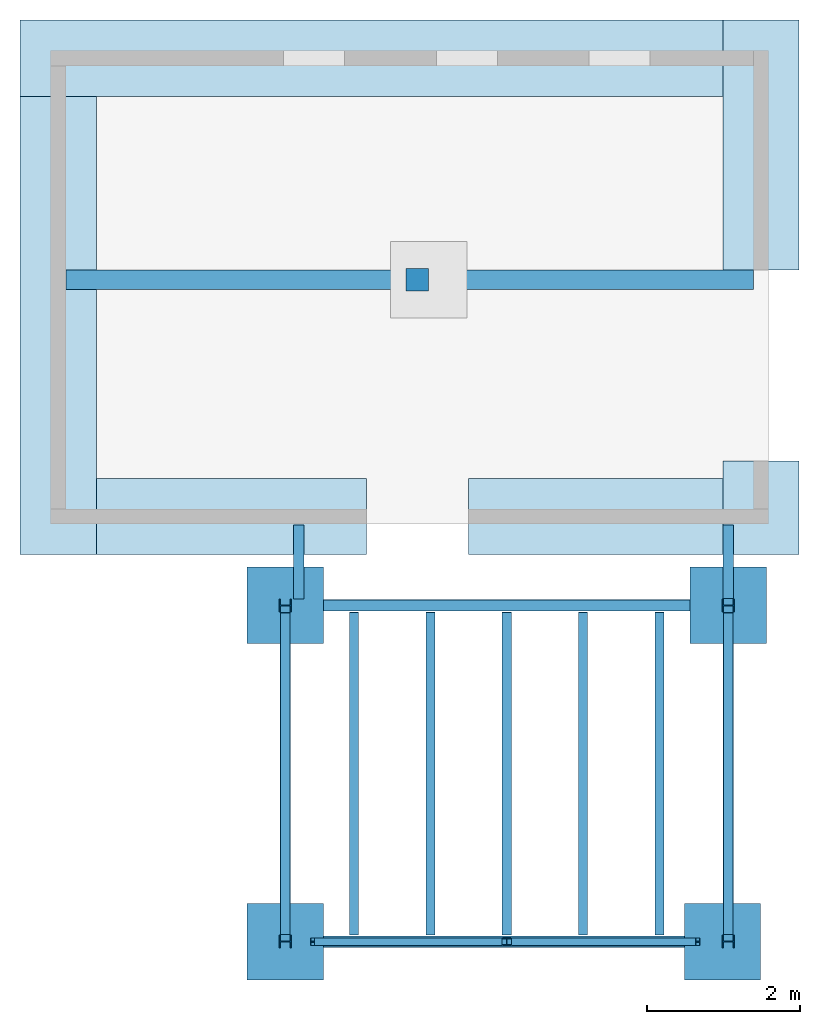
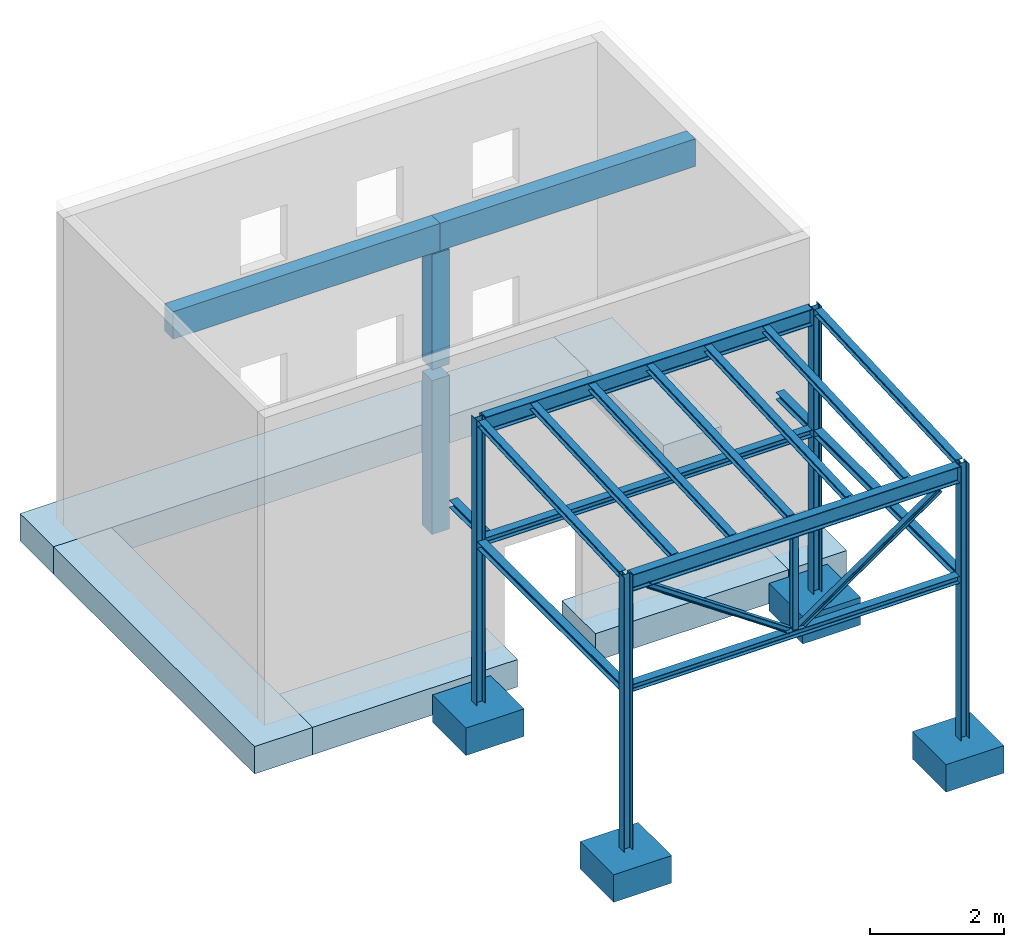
# Not in any storey, part 1 of 2: 19 beams, 7 columns, 4 footings, 4 slabs.
"""IFC2X3 building model written with IfcOpenShell, lengths in metres."""

from ifc_helpers import new_model, entity, si_unit, converted_unit, derived_unit, direction, frame, frame_2d, origin, place, context, subcontext, project, spatial, polyline, circle_curve, parameter, trimmed, segment, composite_curve, rectangle, i_section, outline, extrude, source, transform, mapped, material, type_object, type_shapes, element, save


model = new_model("IFC2X3")

# Units and contexts
model_context = context("Model", 3, precision=1e-05, world=origin(), true_north=direction((6.12303176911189e-17, 1.0)))
body_context = subcontext(model_context, "Body", "Model", "MODEL_VIEW")
ifc_project = project(units=[si_unit("LENGTHUNIT", "METRE"), si_unit("AREAUNIT", "SQUARE_METRE"), si_unit("VOLUMEUNIT", "CUBIC_METRE"), converted_unit("PLANEANGLEUNIT", "DEGREE", entity("IfcRatioMeasure", 0.0174532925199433), si_unit("PLANEANGLEUNIT", "RADIAN"), dimensions=[0, 0, 0, 0, 0, 0, 0]), si_unit("MASSUNIT", "GRAM", prefix="KILO"), derived_unit("MASSDENSITYUNIT", [(si_unit("MASSUNIT", "GRAM", prefix="KILO"), 1), (si_unit("LENGTHUNIT", "METRE"), -3)]), si_unit("TIMEUNIT", "SECOND"), si_unit("FREQUENCYUNIT", "HERTZ"), si_unit("THERMODYNAMICTEMPERATUREUNIT", "DEGREE_CELSIUS"), derived_unit("THERMALTRANSMITTANCEUNIT", [(si_unit("MASSUNIT", "GRAM", prefix="KILO"), 1), (si_unit("THERMODYNAMICTEMPERATUREUNIT", "KELVIN"), -1), (si_unit("TIMEUNIT", "SECOND"), -3)]), derived_unit("VOLUMETRICFLOWRATEUNIT", [(si_unit("LENGTHUNIT", "METRE"), 3), (si_unit("TIMEUNIT", "SECOND"), -1)]), si_unit("ELECTRICCURRENTUNIT", "AMPERE"), si_unit("ELECTRICVOLTAGEUNIT", "VOLT"), si_unit("POWERUNIT", "WATT"), si_unit("FORCEUNIT", "NEWTON", prefix="KILO"), si_unit("ILLUMINANCEUNIT", "LUX"), si_unit("LUMINOUSFLUXUNIT", "LUMEN"), si_unit("LUMINOUSINTENSITYUNIT", "CANDELA"), derived_unit("USERDEFINED", [(si_unit("MASSUNIT", "GRAM", prefix="KILO"), -1), (si_unit("LENGTHUNIT", "METRE"), -2), (si_unit("TIMEUNIT", "SECOND"), 3), (si_unit("LUMINOUSFLUXUNIT", "LUMEN"), 1)]), derived_unit("LINEARVELOCITYUNIT", [(si_unit("LENGTHUNIT", "METRE"), 1), (si_unit("TIMEUNIT", "SECOND"), -1)]), si_unit("PRESSUREUNIT", "PASCAL"), derived_unit("USERDEFINED", [(si_unit("LENGTHUNIT", "METRE"), -2), (si_unit("MASSUNIT", "GRAM", prefix="KILO"), 1), (si_unit("TIMEUNIT", "SECOND"), -2)])], contexts=[model_context])

# Site, building
site_placement = place(None, frame((4.52949330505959e-05, 1.90131286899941e-05, 0.0)))
site = spatial("IfcSite", under=ifc_project, at=site_placement, Name="Default", CompositionType="ELEMENT")
building_placement = place(site_placement, origin())
building = spatial("IfcBuilding", under=site, at=building_placement, CompositionType="ELEMENT")

# Footings
ifc_material_1 = material(Name="Ortbeton - bewehrt")
footing_1_placement = place(None, origin())
element("IfcFooting", 1, at=footing_1_placement, inside=building, material=ifc_material_1, Name="Wandfundament:STB 1000 x 500", ObjectType="Wandfundament:STB 1000 x 500", PredefinedType="STRIP_FOOTING", context=body_context, shape_type="SweptSolid", body=[
    extrude(rectangle(XDim=1.22985954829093, YDim=1.0, at=frame_2d((-0.077014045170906, -0.0999999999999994), x_axis=(1.0, 0.0))), frame((7.3281312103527, 6.75631842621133, -0.5), z_axis=(0.0, 0.0, 1.0), x_axis=(0.0, 1.0, 0.0)), (0.0, 0.0, 1.0), 0.5),
    extrude(rectangle(XDim=3.27014045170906, YDim=1.0, at=frame_2d((-0.127014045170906, -0.0999999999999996), x_axis=(1.0, 0.0))), frame((7.32813121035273, 11.5563184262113, -0.5), z_axis=(0.0, 0.0, 1.0), x_axis=(0.0, 1.0, 0.0)), (0.0, 0.0, 1.0), 0.5),
])
footing_2_placement = place(None, origin())
element("IfcFooting", 2, at=footing_2_placement, inside=building, material=ifc_material_1, Name="Wandfundament:STB 1000 x 500", ObjectType="Wandfundament:STB 1000 x 500", PredefinedType="STRIP_FOOTING", context=body_context, shape_type="SweptSolid", body=[
    extrude(rectangle(XDim=9.20000000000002, YDim=1.0, at=frame_2d((0.720000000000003, 0.100000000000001), x_axis=(1.0, 0.0))), frame((1.60813121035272, 12.464374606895, -0.5)), (0.0, 0.0, 1.0), 0.5),
])
footing_3_placement = place(None, origin())
element("IfcFooting", 3, at=footing_3_placement, inside=building, material=ifc_material_1, Name="Wandfundament:STB 1000 x 500", ObjectType="Wandfundament:STB 1000 x 500", PredefinedType="STRIP_FOOTING", context=body_context, shape_type="SweptSolid", body=[
    extrude(rectangle(XDim=5.99999999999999, YDim=1.0, at=frame_2d((0.4, 0.0999999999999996), x_axis=(1.0, 0.0))), frame((-1.6718687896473, 8.66437460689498, -0.5), z_axis=(0.0, 0.0, 1.0), x_axis=(0.0, 1.0, 0.0)), (0.0, 0.0, 1.0), 0.5),
])
footing_4_placement = place(None, origin())
element("IfcFooting", 4, at=footing_4_placement, inside=building, material=ifc_material_1, Name="Wandfundament:STB 1000 x 500", ObjectType="Wandfundament:STB 1000 x 500", PredefinedType="STRIP_FOOTING", context=body_context, shape_type="SweptSolid", body=[
    extrude(rectangle(XDim=3.53320579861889, YDim=1.0, at=frame_2d((5.55111512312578e-16, 0.0), x_axis=(1.0, 0.0))), frame((0.494734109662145, 6.56437460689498, -0.5), z_axis=(0.0, 0.0, 1.0), x_axis=(-1.0, 0.0, 0.0)), (0.0, 0.0, 1.0), 0.5),
    extrude(rectangle(XDim=3.33039362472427, YDim=1.0, at=frame_2d((1.55431223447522e-15, 0.0), x_axis=(1.0, 0.0))), frame((5.26293439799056, 6.56437460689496, -0.5)), (0.0, 0.0, 1.0), 0.5),
])

# Columns
ifc_material_2 = material(Name="Metall - Baustahl S235")
column_type_1 = type_object("IfcColumnType", Name="HEA 160", PredefinedType="COLUMN")
shared_shape_1 = source(origin(), body_context, "Body", "SweptSolid", [
    extrude(outline(composite_curve([segment(polyline([(0.067, -0.08), (0.076, -0.08)]), True, "CONTINUOUS"), segment(polyline([(0.076, -0.08), (0.076, 0.08)]), True, "CONTINUOUS"), segment(polyline([(0.076, 0.08), (0.067, 0.08)]), True, "CONTINUOUS"), segment(polyline([(0.067, 0.08), (0.067, 0.018)]), True, "CONTINUOUS"), segment(trimmed(circle_curve(frame_2d((0.052, 0.018), x_axis=(1.0, 0.0)), 0.015), [parameter(270.0)], [parameter(0.0)], True, "PARAMETER"), False, "CONTINUOUS"), segment(polyline([(0.052, 0.003), (-0.052, 0.003)]), True, "CONTINUOUS"), segment(trimmed(circle_curve(frame_2d((-0.052, 0.018), x_axis=(0.0, -1.0)), 0.015), [parameter(270.0)], [parameter(0.0)], True, "PARAMETER"), False, "CONTINUOUS"), segment(polyline([(-0.067, 0.018), (-0.067, 0.08)]), True, "CONTINUOUS"), segment(polyline([(-0.067, 0.08), (-0.076, 0.08)]), True, "CONTINUOUS"), segment(polyline([(-0.076, 0.08), (-0.076, -0.08)]), True, "CONTINUOUS"), segment(polyline([(-0.076, -0.08), (-0.067, -0.08)]), True, "CONTINUOUS"), segment(polyline([(-0.067, -0.08), (-0.067, -0.018)]), True, "CONTINUOUS"), segment(trimmed(circle_curve(frame_2d((-0.052, -0.018), x_axis=(-1.0, 0.0)), 0.015), [parameter(270.0)], [parameter(0.0)], True, "PARAMETER"), False, "CONTINUOUS"), segment(polyline([(-0.052, -0.00299999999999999), (0.052, -0.00299999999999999)]), True, "CONTINUOUS"), segment(trimmed(circle_curve(frame_2d((0.052, -0.018), x_axis=(0.0, 1.0)), 0.015), [parameter(270.0)], [parameter(0.0)], True, "PARAMETER"), False, "CONTINUOUS"), segment(polyline([(0.067, -0.018), (0.067, -0.08)]), True, "CONTINUOUS")], self_intersect=False)), frame((0.0, 0.0, 0.0), z_axis=(0.0, 0.0, 1.0), x_axis=(0.0, -1.0, 0.0)), (0.0, 0.0, 1.0), 5.0),
])
type_shapes(column_type_1, [shared_shape_1])
for number, where, z_axis, x_axis in (
    (5, (1.19995470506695, 0.999980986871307, 0.0), (0.0, 0.0, 1.0), (0.0, -1.0, 0.0)),
    (6, (6.99995470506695, 0.999980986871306, 0.0), (0.0, 0.0, 1.0), (0.0, -1.0, 0.0)),
):
    element("IfcColumn", number, at=place(None, frame(where, z_axis=z_axis, x_axis=x_axis)), inside=building, type_object=column_type_1, material=ifc_material_2, Name="HEA Stütze:HEA 160", ObjectType="HEA Stütze:HEA 160", context=body_context, shape_type="MappedRepresentation", body=[
        mapped(shared_shape_1, transform((0.0, 0.0, 0.0), scale=1.0)),
    ])
column_type_2 = type_object("IfcColumnType", Name="HEA 160", PredefinedType="COLUMN")
shared_shape_2 = source(origin(), body_context, "Body", "SweptSolid", [
    extrude(outline(composite_curve([segment(polyline([(0.067, -0.08), (0.076, -0.08)]), True, "CONTINUOUS"), segment(polyline([(0.076, -0.08), (0.076, 0.08)]), True, "CONTINUOUS"), segment(polyline([(0.076, 0.08), (0.067, 0.08)]), True, "CONTINUOUS"), segment(polyline([(0.067, 0.08), (0.067, 0.018)]), True, "CONTINUOUS"), segment(trimmed(circle_curve(frame_2d((0.052, 0.018), x_axis=(1.0, 0.0)), 0.015), [parameter(270.0)], [parameter(0.0)], True, "PARAMETER"), False, "CONTINUOUS"), segment(polyline([(0.052, 0.003), (-0.052, 0.003)]), True, "CONTINUOUS"), segment(trimmed(circle_curve(frame_2d((-0.052, 0.018), x_axis=(0.0, -1.0)), 0.015), [parameter(270.0)], [parameter(0.0)], True, "PARAMETER"), False, "CONTINUOUS"), segment(polyline([(-0.067, 0.018), (-0.067, 0.08)]), True, "CONTINUOUS"), segment(polyline([(-0.067, 0.08), (-0.076, 0.08)]), True, "CONTINUOUS"), segment(polyline([(-0.076, 0.08), (-0.076, -0.08)]), True, "CONTINUOUS"), segment(polyline([(-0.076, -0.08), (-0.067, -0.08)]), True, "CONTINUOUS"), segment(polyline([(-0.067, -0.08), (-0.067, -0.018)]), True, "CONTINUOUS"), segment(trimmed(circle_curve(frame_2d((-0.052, -0.018), x_axis=(-1.0, 0.0)), 0.015), [parameter(270.0)], [parameter(0.0)], True, "PARAMETER"), False, "CONTINUOUS"), segment(polyline([(-0.052, -0.00299999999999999), (0.052, -0.00299999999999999)]), True, "CONTINUOUS"), segment(trimmed(circle_curve(frame_2d((0.052, -0.018), x_axis=(0.0, 1.0)), 0.015), [parameter(270.0)], [parameter(0.0)], True, "PARAMETER"), False, "CONTINUOUS"), segment(polyline([(0.067, -0.018), (0.067, -0.08)]), True, "CONTINUOUS")], self_intersect=False)), frame((0.0, 0.0, 0.0), z_axis=(0.0, 0.0, 1.0), x_axis=(0.0, -1.0, 0.0)), (0.0, 0.0, 1.0), 5.2),
])
type_shapes(column_type_2, [shared_shape_2])
for number, where, z_axis, x_axis in (
    (7, (6.99995470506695, 5.3999809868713, 0.0), (0.0, 0.0, 1.0), (0.0, -1.0, 0.0)),
    (8, (1.19995470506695, 5.3999809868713, 0.0), (0.0, 0.0, 1.0), (0.0, -1.0, 0.0)),
):
    element("IfcColumn", number, at=place(None, frame(where, z_axis=z_axis, x_axis=x_axis)), inside=building, type_object=column_type_2, material=ifc_material_2, Name="HEA Stütze:HEA 160", ObjectType="HEA Stütze:HEA 160", context=body_context, shape_type="MappedRepresentation", body=[
        mapped(shared_shape_2, transform((0.0, 0.0, 0.0), scale=1.0)),
    ])
column_type_3 = type_object("IfcColumnType", Name="HEA 100", PredefinedType="COLUMN")
shared_shape_3 = source(origin(), body_context, "Body", "SweptSolid", [
    extrude(outline(composite_curve([segment(polyline([(0.04, -0.05), (0.048, -0.05)]), True, "CONTINUOUS"), segment(polyline([(0.048, -0.05), (0.048, 0.05)]), True, "CONTINUOUS"), segment(polyline([(0.048, 0.05), (0.04, 0.05)]), True, "CONTINUOUS"), segment(polyline([(0.04, 0.05), (0.04, 0.0145)]), True, "CONTINUOUS"), segment(trimmed(circle_curve(frame_2d((0.028, 0.0145), x_axis=(1.0, 0.0)), 0.012), [parameter(270.0)], [parameter(0.0)], True, "PARAMETER"), False, "CONTINUOUS"), segment(polyline([(0.028, 0.0025), (-0.028, 0.0025)]), True, "CONTINUOUS"), segment(trimmed(circle_curve(frame_2d((-0.028, 0.0145), x_axis=(0.0, -1.0)), 0.012), [parameter(270.0)], [parameter(0.0)], True, "PARAMETER"), False, "CONTINUOUS"), segment(polyline([(-0.04, 0.0145), (-0.04, 0.05)]), True, "CONTINUOUS"), segment(polyline([(-0.04, 0.05), (-0.048, 0.05)]), True, "CONTINUOUS"), segment(polyline([(-0.048, 0.05), (-0.048, -0.05)]), True, "CONTINUOUS"), segment(polyline([(-0.048, -0.05), (-0.04, -0.05)]), True, "CONTINUOUS"), segment(polyline([(-0.04, -0.05), (-0.04, -0.0145)]), True, "CONTINUOUS"), segment(trimmed(circle_curve(frame_2d((-0.028, -0.0145), x_axis=(-1.0, 0.0)), 0.012), [parameter(269.999999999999)], [parameter(0.0)], True, "PARAMETER"), False, "CONTINUOUS"), segment(polyline([(-0.028, -0.0025), (0.028, -0.0025)]), True, "CONTINUOUS"), segment(trimmed(circle_curve(frame_2d((0.028, -0.0145), x_axis=(0.0, 1.0)), 0.012), [parameter(270.0)], [parameter(0.0)], True, "PARAMETER"), False, "CONTINUOUS"), segment(polyline([(0.04, -0.0145), (0.04, -0.05)]), True, "CONTINUOUS")], self_intersect=False)), frame((0.0, 0.0, 3.0), z_axis=(0.0, 0.0, 1.0), x_axis=(0.0, -1.0, 0.0)), (0.0, 0.0, 1.0), 1.7),
])
type_shapes(column_type_3, [shared_shape_3])
column_1_placement = place(None, frame((4.09995470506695, 0.999980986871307, 0.0)))
element("IfcColumn", 9, at=column_1_placement, inside=building, type_object=column_type_3, material=ifc_material_2, Name="HEA Stütze:HEA 100", ObjectType="HEA Stütze:HEA 100", context=body_context, shape_type="MappedRepresentation", body=[
    mapped(shared_shape_3, transform((0.0, 0.0, 0.0), scale=1.0)),
])
ifc_material_3 = material(Name="Ortbeton - bewehrt Verputzt")
column_type_4 = type_object("IfcColumnType", Name="STB 300 x 300", PredefinedType="COLUMN")
shared_shape_4 = source(origin(), body_context, "Body", "SweptSolid", [
    extrude(rectangle(XDim=0.3, YDim=0.3, at=frame_2d((-5.41233724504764e-16, 0.0), x_axis=(1.0, 0.0))), frame((2.92813121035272, 9.66437460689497, 0.0), z_axis=(0.0, 0.0, 1.0), x_axis=(0.0, -1.0, 0.0)), (0.0, 0.0, 1.0), 2.8),
])
type_shapes(column_type_4, [shared_shape_4])
column_2_placement = place(None, origin())
element("IfcColumn", 10, at=column_2_placement, inside=building, type_object=column_type_4, material=ifc_material_3, Name="STB Stütze - rechteckig:STB 300 x 300", ObjectType="STB Stütze - rechteckig:STB 300 x 300", context=body_context, shape_type="MappedRepresentation", body=[
    mapped(shared_shape_4, transform((0.0, 0.0, 0.0), scale=1.0)),
])
column_type_5 = type_object("IfcColumnType", Name="STB 300 x 300", PredefinedType="COLUMN")
shared_shape_5 = source(origin(), body_context, "Body", "SweptSolid", [
    extrude(rectangle(XDim=0.3, YDim=0.3, at=frame_2d((-5.41233724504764e-16, 0.0), x_axis=(1.0, 0.0))), frame((2.92813121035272, 9.66437460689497, 3.0), z_axis=(0.0, 0.0, 1.0), x_axis=(0.0, -1.0, 0.0)), (0.0, 0.0, 1.0), 2.1),
])
type_shapes(column_type_5, [shared_shape_5])
column_3_placement = place(None, origin())
element("IfcColumn", 11, at=column_3_placement, inside=building, type_object=column_type_5, material=ifc_material_3, Name="STB Stütze - rechteckig:STB 300 x 300", ObjectType="STB Stütze - rechteckig:STB 300 x 300", context=body_context, shape_type="MappedRepresentation", body=[
    mapped(shared_shape_5, transform((0.0, 0.0, 0.0), scale=1.0)),
])

# Beams
beam_type_1 = type_object("IfcBeamType", Name="HEA 120", PredefinedType="BEAM")
beam_1_placement = place(None, frame((6.99995470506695, 0.999980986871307, 5.0), z_axis=(0.0, -0.0454076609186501, 0.9989685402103), x_axis=(0.0, 0.9989685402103, 0.0454076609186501)))
element("IfcBeam", 12, at=beam_1_placement, inside=building, type_object=beam_type_1, material=ifc_material_2, Name="HEA Träger:HEA 120", ObjectType="HEA Träger:HEA 120", context=body_context, shape_type="SweptSolid", body=[
    extrude(i_section(OverallWidth=0.12, OverallDepth=0.114, WebThickness=0.00499999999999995, FlangeThickness=0.00800000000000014, FilletRadius=0.0120000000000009, at=frame_2d((-1.08246744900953e-15, 5.41233724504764e-16), x_axis=(0.0, 1.0))), frame((0.0926715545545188, 0.0, -0.0570000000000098), z_axis=(1.0, 0.0, 0.0), x_axis=(0.0, 0.0, -1.0)), (0.0, 0.0, 1.0), 4.2139),
])
beam_2_placement = place(None, frame((1.19995470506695, 0.999980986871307, 5.0), z_axis=(0.0, -0.0454076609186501, 0.9989685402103), x_axis=(0.0, 0.9989685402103, 0.0454076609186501)))
element("IfcBeam", 13, at=beam_2_placement, inside=building, type_object=beam_type_1, material=ifc_material_2, Name="HEA Träger:HEA 120", ObjectType="HEA Träger:HEA 120", context=body_context, shape_type="SweptSolid", body=[
    extrude(i_section(OverallWidth=0.12, OverallDepth=0.114, WebThickness=0.00500000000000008, FlangeThickness=0.00800000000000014, FilletRadius=0.0119999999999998, at=frame_2d((-1.08593689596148e-15, 6.59194920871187e-17), x_axis=(0.0, 1.0))), frame((0.092671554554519, 0.0, -0.0570000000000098), z_axis=(1.0, 0.0, 0.0), x_axis=(0.0, 0.0, -1.0)), (0.0, 0.0, 1.0), 4.2139),
])
beam_3_placement = place(None, frame((2.09995470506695, 0.999980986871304, 5.0), z_axis=(0.0, -0.0454076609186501, 0.9989685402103), x_axis=(0.0, 0.9989685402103, 0.0454076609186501)))
element("IfcBeam", 14, at=beam_3_placement, inside=building, type_object=beam_type_1, material=ifc_material_2, Name="HEA Träger:HEA 120", ObjectType="HEA Träger:HEA 120", context=body_context, shape_type="SweptSolid", body=[
    extrude(i_section(OverallWidth=0.12, OverallDepth=0.114, WebThickness=0.00499999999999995, FlangeThickness=0.00800000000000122, FilletRadius=0.0119999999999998, at=frame_2d((2.16493489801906e-15, 0.0), x_axis=(0.0, 1.0))), frame((0.0876715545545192, 0.0, -0.0570000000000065), z_axis=(1.0, 0.0, 0.0), x_axis=(0.0, 0.0, -1.0)), (0.0, 0.0, 1.0), 4.2239),
])
beam_4_placement = place(None, frame((3.09995470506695, 0.999980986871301, 5.0), z_axis=(0.0, -0.0454076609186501, 0.9989685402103), x_axis=(0.0, 0.9989685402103, 0.0454076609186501)))
element("IfcBeam", 15, at=beam_4_placement, inside=building, type_object=beam_type_1, material=ifc_material_2, Name="HEA Träger:HEA 120", ObjectType="HEA Träger:HEA 120", context=body_context, shape_type="SweptSolid", body=[
    extrude(i_section(OverallWidth=0.12, OverallDepth=0.114, WebThickness=0.00500000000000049, FlangeThickness=0.00800000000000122, FilletRadius=0.012, at=frame_2d((2.16493489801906e-15, -8.11850586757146e-16), x_axis=(0.0, 1.0))), frame((0.0876715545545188, 0.0, -0.0570000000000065), z_axis=(1.0, 0.0, 0.0), x_axis=(0.0, 0.0, -1.0)), (0.0, 0.0, 1.0), 4.2239),
])
beam_5_placement = place(None, frame((4.09995470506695, 0.999980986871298, 5.0), z_axis=(0.0, -0.0454076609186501, 0.9989685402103), x_axis=(0.0, 0.9989685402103, 0.0454076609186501)))
element("IfcBeam", 16, at=beam_5_placement, inside=building, type_object=beam_type_1, material=ifc_material_2, Name="HEA Träger:HEA 120", ObjectType="HEA Träger:HEA 120", context=body_context, shape_type="SweptSolid", body=[
    extrude(i_section(OverallWidth=0.12, OverallDepth=0.114, WebThickness=0.00500000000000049, FlangeThickness=0.00800000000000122, FilletRadius=0.012, at=frame_2d((2.16493489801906e-15, -2.70616862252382e-16), x_axis=(0.0, 1.0))), frame((0.0876715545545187, 0.0, -0.0570000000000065), z_axis=(1.0, 0.0, 0.0), x_axis=(0.0, 0.0, -1.0)), (0.0, 0.0, 1.0), 4.2239),
])
beam_6_placement = place(None, frame((5.09995470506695, 0.999980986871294, 5.0), z_axis=(0.0, -0.0454076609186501, 0.9989685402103), x_axis=(0.0, 0.9989685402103, 0.0454076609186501)))
element("IfcBeam", 17, at=beam_6_placement, inside=building, type_object=beam_type_1, material=ifc_material_2, Name="HEA Träger:HEA 120", ObjectType="HEA Träger:HEA 120", context=body_context, shape_type="SweptSolid", body=[
    extrude(i_section(OverallWidth=0.12, OverallDepth=0.114, WebThickness=0.00499999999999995, FlangeThickness=0.00800000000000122, FilletRadius=0.0120000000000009, at=frame_2d((2.16493489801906e-15, 5.41233724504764e-16), x_axis=(0.0, 1.0))), frame((0.0876715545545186, 0.0, -0.0570000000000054), z_axis=(1.0, 0.0, 0.0), x_axis=(0.0, 0.0, -1.0)), (0.0, 0.0, 1.0), 4.2239),
])
beam_7_placement = place(None, frame((6.09995470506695, 0.999980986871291, 5.0), z_axis=(0.0, -0.0454076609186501, 0.9989685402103), x_axis=(0.0, 0.9989685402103, 0.0454076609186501)))
element("IfcBeam", 18, at=beam_7_placement, inside=building, type_object=beam_type_1, material=ifc_material_2, Name="HEA Träger:HEA 120", ObjectType="HEA Träger:HEA 120", context=body_context, shape_type="SweptSolid", body=[
    extrude(i_section(OverallWidth=0.12, OverallDepth=0.114, WebThickness=0.00499999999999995, FlangeThickness=0.00800000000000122, FilletRadius=0.0120000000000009, at=frame_2d((2.16493489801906e-15, -5.41233724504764e-16), x_axis=(0.0, 1.0))), frame((0.087671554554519, 0.0, -0.0570000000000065), z_axis=(1.0, 0.0, 0.0), x_axis=(0.0, 0.0, -1.0)), (0.0, 0.0, 1.0), 4.2239),
])
beam_type_2 = type_object("IfcBeamType", Name="IPE 300", PredefinedType="BEAM")
beam_8_placement = place(None, frame((1.19995470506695, 0.999980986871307, 5.0)))
element("IfcBeam", 19, at=beam_8_placement, inside=building, type_object=beam_type_2, material=ifc_material_2, Name="IPE Träger:IPE 300", ObjectType="IPE Träger:IPE 300", context=body_context, shape_type="SweptSolid", body=[
    extrude(i_section(OverallWidth=0.15, OverallDepth=0.299999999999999, WebThickness=0.00710000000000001, FlangeThickness=0.0107000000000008, FilletRadius=0.0149999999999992, at=frame_2d((1.36002320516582e-15, 1.31838984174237e-16), x_axis=(0.0, 1.0))), frame((0.0886999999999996, 0.0, -0.150000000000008), z_axis=(1.0, 0.0, 0.0), x_axis=(0.0, 0.0, -1.0)), (0.0, 0.0, 1.0), 5.6226),
])
beam_9_placement = place(None, frame((1.19995470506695, 5.3999809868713, 5.2)))
element("IfcBeam", 20, at=beam_9_placement, inside=building, type_object=beam_type_2, material=ifc_material_2, Name="IPE Träger:IPE 300", ObjectType="IPE Träger:IPE 300", context=body_context, shape_type="SweptSolid", body=[
    extrude(i_section(OverallWidth=0.150000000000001, OverallDepth=0.3, WebThickness=0.00710000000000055, FlangeThickness=0.0107000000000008, FilletRadius=0.0149999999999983, at=frame_2d((5.41233724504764e-16, 1.08246744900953e-15), x_axis=(0.0, 1.0))), frame((0.0886999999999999, 0.0, -0.150000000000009), z_axis=(1.0, 0.0, 0.0), x_axis=(0.0, 0.0, -1.0)), (0.0, 0.0, 1.0), 5.6226),
])
beam_type_3 = type_object("IfcBeamType", Name="HEA 140", PredefinedType="BEAM")
beam_10_placement = place(None, frame((1.19995470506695, 0.999980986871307, 3.0)))
element("IfcBeam", 21, at=beam_10_placement, inside=building, type_object=beam_type_3, material=ifc_material_2, Name="HEA Träger:HEA 140", ObjectType="HEA Träger:HEA 140", context=body_context, shape_type="SweptSolid", body=[
    extrude(i_section(OverallWidth=0.140000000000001, OverallDepth=0.133, WebThickness=0.00549999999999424, FlangeThickness=0.00850000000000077, FilletRadius=0.0119999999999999, at=frame_2d((5.41233724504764e-16, 6.93889390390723e-17), x_axis=(0.0, 1.0))), frame((0.0886999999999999, 0.0, -0.0665000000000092), z_axis=(1.0, 0.0, 0.0), x_axis=(0.0, 0.0, -1.0)), (0.0, 0.0, 1.0), 5.6226),
])
beam_11_placement = place(None, frame((1.19995470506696, 5.3999809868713, 3.0)))
element("IfcBeam", 22, at=beam_11_placement, inside=building, type_object=beam_type_3, material=ifc_material_2, Name="HEA Träger:HEA 140", ObjectType="HEA Träger:HEA 140", context=body_context, shape_type="SweptSolid", body=[
    extrude(i_section(OverallWidth=0.140000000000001, OverallDepth=0.133, WebThickness=0.00549999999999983, FlangeThickness=0.00850000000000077, FilletRadius=0.012000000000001, at=frame_2d((5.41233724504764e-16, 0.0), x_axis=(0.0, 1.0))), frame((0.0886999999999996, 0.0, -0.0665000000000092), z_axis=(1.0, 0.0, 0.0), x_axis=(0.0, 0.0, -1.0)), (0.0, 0.0, 1.0), 5.6226),
])
beam_12_placement = place(None, frame((6.99995470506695, 0.999980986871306, 3.0), z_axis=(0.0, 0.0, 1.0), x_axis=(0.0, 1.0, 0.0)))
element("IfcBeam", 23, at=beam_12_placement, inside=building, type_object=beam_type_3, material=ifc_material_2, Name="HEA Träger:HEA 140", ObjectType="HEA Träger:HEA 140", context=body_context, shape_type="SweptSolid", body=[
    extrude(i_section(OverallWidth=0.140000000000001, OverallDepth=0.133, WebThickness=0.00549999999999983, FlangeThickness=0.00850000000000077, FilletRadius=0.012000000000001, at=frame_2d((1.08246744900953e-15, 0.0), x_axis=(0.0, 1.0))), frame((0.0926999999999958, 0.0, -0.0665000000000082), z_axis=(1.0, 0.0, 0.0), x_axis=(0.0, 0.0, -1.0)), (0.0, 0.0, 1.0), 4.2146),
])
beam_13_placement = place(None, frame((1.19995470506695, 0.999980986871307, 3.0), z_axis=(0.0, 0.0, 1.0), x_axis=(0.0, 1.0, 0.0)))
element("IfcBeam", 24, at=beam_13_placement, inside=building, type_object=beam_type_3, material=ifc_material_2, Name="HEA Träger:HEA 140", ObjectType="HEA Träger:HEA 140", context=body_context, shape_type="SweptSolid", body=[
    extrude(i_section(OverallWidth=0.14, OverallDepth=0.133, WebThickness=0.0055000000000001, FlangeThickness=0.00850000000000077, FilletRadius=0.0119999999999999, at=frame_2d((1.08246744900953e-15, 6.93889390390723e-17), x_axis=(0.0, 1.0))), frame((0.0926999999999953, 0.0, -0.0665000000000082), z_axis=(1.0, 0.0, 0.0), x_axis=(0.0, 0.0, -1.0)), (0.0, 0.0, 1.0), 4.2146),
])
beam_14_placement = place(None, frame((6.99995470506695, 5.3999809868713, 3.0), z_axis=(0.0, 0.0, 1.0), x_axis=(9.04591529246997e-05, 0.999999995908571, 0.0)))
element("IfcBeam", 25, at=beam_14_placement, inside=building, type_object=beam_type_3, material=ifc_material_2, Name="HEA Träger:HEA 140", ObjectType="HEA Träger:HEA 140", context=body_context, shape_type="SweptSolid", body=[
    extrude(i_section(OverallWidth=0.14, OverallDepth=0.133, WebThickness=0.00550000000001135, FlangeThickness=0.00850000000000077, FilletRadius=0.0120000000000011, at=frame_2d((1.08246744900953e-15, -1.62370117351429e-15), x_axis=(0.0, 1.0))), frame((0.0927468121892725, 0.0, -0.0665000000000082), z_axis=(1.0, 0.0, 0.0), x_axis=(0.0, 0.0, -1.0)), (0.0, 0.0, 1.0), 0.958900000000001),
])
beam_15_placement = place(None, frame((1.37735470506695, 5.39998098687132, 3.0), z_axis=(0.0, 0.0, 1.0), x_axis=(9.04591529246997e-05, 0.999999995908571, 0.0)))
element("IfcBeam", 26, at=beam_15_placement, inside=building, type_object=beam_type_3, material=ifc_material_2, Name="HEA Träger:HEA 140", ObjectType="HEA Träger:HEA 140", context=body_context, shape_type="SweptSolid", body=[
    extrude(i_section(OverallWidth=0.14, OverallDepth=0.133, WebThickness=0.00550000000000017, FlangeThickness=0.00850000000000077, FilletRadius=0.0119999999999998, at=frame_2d((1.08246744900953e-15, 2.70616862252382e-16), x_axis=(0.0, 1.0))), frame((0.0827468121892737, 0.0, -0.0665000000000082), z_axis=(1.0, 0.0, 0.0), x_axis=(0.0, 0.0, -1.0)), (0.0, 0.0, 1.0), 0.968900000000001),
])
beam_type_4 = type_object("IfcBeamType", Name="HEA 100", PredefinedType="BEAM")
beam_16_placement = place(None, frame((4.09995470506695, 0.999980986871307, 3.0), z_axis=(0.56773295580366, 0.0, 0.823212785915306), x_axis=(-0.823212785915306, 0.0, 0.56773295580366)))
element("IfcBeam", 27, at=beam_16_placement, inside=building, type_object=beam_type_4, material=ifc_material_2, Name="HEA Träger:HEA 100", ObjectType="HEA Träger:HEA 100", context=body_context, shape_type="SweptSolid", body=[
    extrude(i_section(OverallWidth=0.1, OverallDepth=0.0960000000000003, WebThickness=0.00499999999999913, FlangeThickness=0.00800000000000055, FilletRadius=0.0119999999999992, at=frame_2d((-2.18575157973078e-16, 6.59194920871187e-17), x_axis=(0.0, 1.0))), frame((0.0734914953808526, 0.0, -0.0480000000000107), z_axis=(1.0, 0.0, 0.0), x_axis=(0.0, 0.0, -1.0)), (0.0, 0.0, 1.0), 2.9807),
])
beam_17_placement = place(None, frame((4.09995470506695, 0.999980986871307, 3.0), z_axis=(-0.567732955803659, 0.0, 0.823212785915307), x_axis=(0.823212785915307, 0.0, 0.567732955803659)))
element("IfcBeam", 28, at=beam_17_placement, inside=building, type_object=beam_type_4, material=ifc_material_2, Name="HEA Träger:HEA 100", ObjectType="HEA Träger:HEA 100", context=body_context, shape_type="SweptSolid", body=[
    extrude(i_section(OverallWidth=0.1, OverallDepth=0.0959999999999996, WebThickness=0.00499999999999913, FlangeThickness=0.008000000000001, FilletRadius=0.0119999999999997, at=frame_2d((3.7470027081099e-16, 6.59194920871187e-17), x_axis=(0.0, 1.0))), frame((0.073441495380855, 0.0, -0.0480000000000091), z_axis=(1.0, 0.0, 0.0), x_axis=(0.0, 0.0, -1.0)), (0.0, 0.0, 1.0), 2.932),
])
beam_type_5 = type_object("IfcBeamType", Name="STB 250 x 500", PredefinedType="BEAM")
beam_18_placement = place(None, frame((2.92813121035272, 9.66437460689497, 5.6)))
element("IfcBeam", 29, at=beam_18_placement, inside=building, type_object=beam_type_5, material=ifc_material_3, Name="STB Träger - rechteckig:STB 250 x 500", ObjectType="STB Träger - rechteckig:STB 250 x 500", context=body_context, shape_type="SweptSolid", body=[
    extrude(rectangle(XDim=0.5, YDim=0.250000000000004, at=frame_2d((-5.55111512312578e-16, 1.40720768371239e-14), x_axis=(1.0, 0.0))), frame((0.0, 0.0, -0.250000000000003), z_axis=(1.0, 0.0, 0.0), x_axis=(0.0, 0.0, -1.0)), (0.0, 0.0, 1.0), 4.4),
])
beam_19_placement = place(None, frame((2.92813121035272, 9.66437460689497, 5.6), z_axis=(0.0, 0.0, 1.0), x_axis=(-1.0, 0.0, 0.0)))
element("IfcBeam", 30, at=beam_19_placement, inside=building, type_object=beam_type_5, material=ifc_material_3, Name="STB Träger - rechteckig:STB 250 x 500", ObjectType="STB Träger - rechteckig:STB 250 x 500", context=body_context, shape_type="SweptSolid", body=[
    extrude(rectangle(XDim=0.5, YDim=0.250000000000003, at=frame_2d((-5.27355936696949e-16, 1.46202494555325e-14), x_axis=(1.0, 0.0))), frame((0.0, 0.0, -0.250000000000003), z_axis=(1.0, 0.0, 0.0), x_axis=(0.0, 0.0, -1.0)), (0.0, 0.0, 1.0), 4.60000000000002),
])

# Slabs
slab_type_1 = type_object("IfcSlabType", Name="STB 1800 x 1800 x 700", PredefinedType="FLOOR")
slab_1_placement = place(None, origin())
element("IfcSlab", 31, at=slab_1_placement, inside=building, type_object=slab_type_1, Name="Einzelfundament:STB 1800 x 1800 x 700", ObjectType="Einzelfundament:STB 1800 x 1800 x 700", PredefinedType="FLOOR", context=body_context, shape_type="SweptSolid", body=[
    extrude(rectangle(XDim=0.999999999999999, YDim=1.0, at=frame_2d((5.27355936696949e-16, -5.55111512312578e-17), x_axis=(1.0, 0.0))), frame((6.92395470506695, 0.996980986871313, -0.500000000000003), z_axis=(0.0, 0.0, 1.0), x_axis=(-1.0, 0.0, 0.0)), (0.0, 0.0, 1.0), 0.500000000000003),
])
slab_type_2 = type_object("IfcSlabType", Name="STB 1800 x 1800 x 700", PredefinedType="FLOOR")
slab_2_placement = place(None, origin())
element("IfcSlab", 32, at=slab_2_placement, inside=building, type_object=slab_type_2, Name="Einzelfundament:STB 1800 x 1800 x 700", ObjectType="Einzelfundament:STB 1800 x 1800 x 700", PredefinedType="FLOOR", context=body_context, shape_type="SweptSolid", body=[
    extrude(rectangle(XDim=0.999999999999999, YDim=1.0, at=frame_2d((5.27355936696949e-16, 0.0), x_axis=(1.0, 0.0))), frame((6.99995470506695, 5.40298098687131, -0.500000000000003), z_axis=(0.0, 0.0, 1.0), x_axis=(-1.0, 0.0, 0.0)), (0.0, 0.0, 1.0), 0.500000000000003),
])
slab_type_3 = type_object("IfcSlabType", Name="STB 1800 x 1800 x 700", PredefinedType="FLOOR")
slab_3_placement = place(None, origin())
element("IfcSlab", 33, at=slab_3_placement, inside=building, type_object=slab_type_3, Name="Einzelfundament:STB 1800 x 1800 x 700", ObjectType="Einzelfundament:STB 1800 x 1800 x 700", PredefinedType="FLOOR", context=body_context, shape_type="SweptSolid", body=[
    extrude(rectangle(XDim=0.999999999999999, YDim=1.0, at=frame_2d((-8.32667268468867e-17, 5.55111512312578e-17), x_axis=(1.0, 0.0))), frame((1.19995470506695, 0.996980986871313, -0.500000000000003), z_axis=(0.0, 0.0, 1.0), x_axis=(-1.0, 0.0, 0.0)), (0.0, 0.0, 1.0), 0.500000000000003),
])
slab_type_4 = type_object("IfcSlabType", Name="STB 1800 x 1800 x 700", PredefinedType="FLOOR")
slab_4_placement = place(None, origin())
element("IfcSlab", 34, at=slab_4_placement, inside=building, type_object=slab_type_4, Name="Einzelfundament:STB 1800 x 1800 x 700", ObjectType="Einzelfundament:STB 1800 x 1800 x 700", PredefinedType="FLOOR", context=body_context, shape_type="SweptSolid", body=[
    extrude(rectangle(XDim=0.999999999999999, YDim=1.0, at=frame_2d((-8.32667268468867e-17, 0.0), x_axis=(1.0, 0.0))), frame((1.19995470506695, 5.40298098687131, -0.500000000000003), z_axis=(0.0, 0.0, 1.0), x_axis=(-1.0, 0.0, 0.0)), (0.0, 0.0, 1.0), 0.500000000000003),
])

save(model, "model.ifc")
